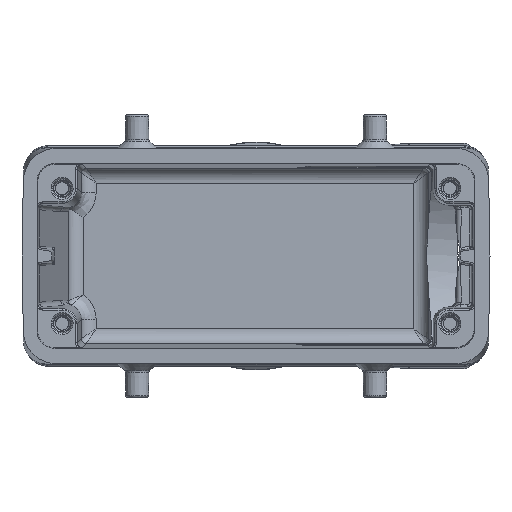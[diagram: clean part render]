
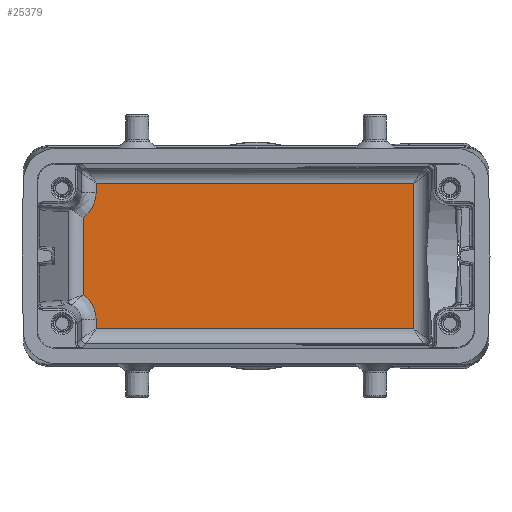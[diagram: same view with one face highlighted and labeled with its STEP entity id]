
A CAD part, front view. The second image highlights one B-rep face of the part: STEP entity #25379.
In plain terms, the highlighted planar face has unit normal (0, -1, 0).
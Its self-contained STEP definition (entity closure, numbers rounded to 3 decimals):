
#13 = CARTESIAN_POINT ( 'NONE',  ( -31.941, 70., -14.564 ) ) ;
#546 = ORIENTED_EDGE ( 'NONE', *, *, #1835, .T. ) ;
#1835 = EDGE_CURVE ( 'NONE', #10181, #6373, #18145, .T. ) ;
#2005 = CARTESIAN_POINT ( 'NONE',  ( -32.363, 70., -10.457 ) ) ;
#2234 = LINE ( 'NONE', #31857, #24948 ) ;
#2263 = CARTESIAN_POINT ( 'NONE',  ( -34.509, 70.011, -7.769 ) ) ;
#2440 = CARTESIAN_POINT ( 'NONE',  ( -32.399, 70., 10.342 ) ) ;
#3286 = DIRECTION ( 'NONE',  ( 0., 0., 1. ) ) ;
#3296 = VECTOR ( 'NONE', #27803, 1000. ) ;
#3528 = VECTOR ( 'NONE', #20782, 1000. ) ;
#4113 = CARTESIAN_POINT ( 'NONE',  ( -31.941, 70., 14.564 ) ) ;
#4394 = CARTESIAN_POINT ( 'NONE',  ( -32.51, 70., -10.129 ) ) ;
#4614 = CARTESIAN_POINT ( 'NONE',  ( -31.956, 70., 12.207 ) ) ;
#4717 = CARTESIAN_POINT ( 'NONE',  ( -31.941, 70., 12.691 ) ) ;
#4851 = CARTESIAN_POINT ( 'NONE',  ( -33.596, 70., -8.547 ) ) ;
#4950 = CARTESIAN_POINT ( 'NONE',  ( -33.357, 70., 8.818 ) ) ;
#5690 = DIRECTION ( 'NONE',  ( -1., 0., 0. ) ) ;
#6373 = VERTEX_POINT ( 'NONE', #12050 ) ;
#6440 = CARTESIAN_POINT ( 'NONE',  ( -31.941, 70., -12.691 ) ) ;
#6977 = CARTESIAN_POINT ( 'NONE',  ( -34.509, 70.011, -7.769 ) ) ;
#7092 = CARTESIAN_POINT ( 'NONE',  ( -33.763, 70., -8.378 ) ) ;
#7279 = ORIENTED_EDGE ( 'NONE', *, *, #7664, .T. ) ;
#7436 = CARTESIAN_POINT ( 'NONE',  ( -31.941, 70., -12.691 ) ) ;
#7598 = CARTESIAN_POINT ( 'NONE',  ( -31.941, 70., -18.5 ) ) ;
#7664 = EDGE_CURVE ( 'NONE', #17764, #9217, #18233, .T. ) ;
#7866 = B_SPLINE_CURVE_WITH_KNOTS ( 'NONE', 3,
 ( #6977, #20398, #17591, #7092, #4851, #25259, #27836, #4394, #2005, #17359, #22888, #9836, #20178, #23002, #7436 ),
 .UNSPECIFIED., .F., .F.,
 ( 4, 2, 2, 2, 1, 2, 2, 4 ),
 ( 0., 0.125, 0.25, 0.5, 0.625, 0.687, 0.75, 1. ),
 .UNSPECIFIED. ) ;
#8155 = LINE ( 'NONE', #22044, #25613 ) ;
#8308 = CARTESIAN_POINT ( 'NONE',  ( -51.563, 70., 14.564 ) ) ;
#8776 = ORIENTED_EDGE ( 'NONE', *, *, #19612, .T. ) ;
#9217 = VERTEX_POINT ( 'NONE', #4113 ) ;
#9286 = CARTESIAN_POINT ( 'NONE',  ( -51.563, 70., -18.5 ) ) ;
#9836 = CARTESIAN_POINT ( 'NONE',  ( -32.142, 70., -11.146 ) ) ;
#10165 = CARTESIAN_POINT ( 'NONE',  ( -32.014, 70., 11.73 ) ) ;
#10181 = VERTEX_POINT ( 'NONE', #17472 ) ;
#10469 = FACE_OUTER_BOUND ( 'NONE', #12418, .T. ) ;
#11663 = PLANE ( 'NONE',  #14244 ) ;
#12050 = CARTESIAN_POINT ( 'NONE',  ( -34.509, 70.013, 7.769 ) ) ;
#12232 = LINE ( 'NONE', #15063, #3296 ) ;
#12418 = EDGE_LOOP ( 'NONE', ( #12465, #30821, #21543, #31502, #27131, #7279, #8776, #546 ) ) ;
#12465 = ORIENTED_EDGE ( 'NONE', *, *, #18126, .T. ) ;
#14244 = AXIS2_PLACEMENT_3D ( 'NONE', #9286, #27623, #32638 ) ;
#15063 = CARTESIAN_POINT ( 'NONE',  ( -31.941, 70., -18.5 ) ) ;
#15459 = CARTESIAN_POINT ( 'NONE',  ( 31.477, 70., -14.564 ) ) ;
#15598 = VECTOR ( 'NONE', #28450, 1000. ) ;
#16334 = EDGE_CURVE ( 'NONE', #28227, #32790, #7866, .T. ) ;
#16506 = DIRECTION ( 'NONE',  ( 1., 0., 0. ) ) ;
#17359 = CARTESIAN_POINT ( 'NONE',  ( -32.246, 70., -10.798 ) ) ;
#17472 = CARTESIAN_POINT ( 'NONE',  ( -31.941, 70., 12.691 ) ) ;
#17513 = VERTEX_POINT ( 'NONE', #13 ) ;
#17591 = CARTESIAN_POINT ( 'NONE',  ( -34.121, 70., -8.058 ) ) ;
#17764 = VERTEX_POINT ( 'NONE', #27402 ) ;
#18126 = EDGE_CURVE ( 'NONE', #6373, #28227, #29312, .T. ) ;
#18145 = B_SPLINE_CURVE_WITH_KNOTS ( 'NONE', 3,
 ( #4717, #25251, #4614, #10165, #28483, #33618, #2440, #30891, #31005, #20828, #23326, #4950, #18234, #23536, #28382 ),
 .UNSPECIFIED., .F., .F.,
 ( 4, 2, 2, 2, 1, 2, 2, 4 ),
 ( 0., 0.125, 0.25, 0.5, 0.625, 0.687, 0.75, 1. ),
 .UNSPECIFIED. ) ;
#18233 = LINE ( 'NONE', #8308, #31964 ) ;
#18234 = CARTESIAN_POINT ( 'NONE',  ( -33.752, 70., 8.368 ) ) ;
#19612 = EDGE_CURVE ( 'NONE', #9217, #10181, #12232, .T. ) ;
#20178 = CARTESIAN_POINT ( 'NONE',  ( -32., 70., -11.727 ) ) ;
#20398 = CARTESIAN_POINT ( 'NONE',  ( -34.31, 70., -7.909 ) ) ;
#20782 = DIRECTION ( 'NONE',  ( 0., 0., -1. ) ) ;
#20828 = CARTESIAN_POINT ( 'NONE',  ( -33.131, 70., 9.102 ) ) ;
#21293 = EDGE_CURVE ( 'NONE', #17513, #33285, #8155, .T. ) ;
#21543 = ORIENTED_EDGE ( 'NONE', *, *, #28230, .T. ) ;
#22044 = CARTESIAN_POINT ( 'NONE',  ( -51.563, 70., -14.564 ) ) ;
#22888 = CARTESIAN_POINT ( 'NONE',  ( -32.175, 70., -11.028 ) ) ;
#23002 = CARTESIAN_POINT ( 'NONE',  ( -31.942, 70., -12.203 ) ) ;
#23326 = CARTESIAN_POINT ( 'NONE',  ( -33.279, 70., 8.912 ) ) ;
#23536 = CARTESIAN_POINT ( 'NONE',  ( -34.11, 70., 8.049 ) ) ;
#24948 = VECTOR ( 'NONE', #3286, 1000. ) ;
#25251 = CARTESIAN_POINT ( 'NONE',  ( -31.942, 70., 12.447 ) ) ;
#25259 = CARTESIAN_POINT ( 'NONE',  ( -33.117, 70., -9.091 ) ) ;
#25379 = ADVANCED_FACE ( 'NONE', ( #10469 ), #11663, .T. ) ;
#25613 = VECTOR ( 'NONE', #16506, 1000. ) ;
#27131 = ORIENTED_EDGE ( 'NONE', *, *, #31623, .T. ) ;
#27402 = CARTESIAN_POINT ( 'NONE',  ( 31.477, 70., 14.564 ) ) ;
#27623 = DIRECTION ( 'NONE',  ( 0., -1., 0. ) ) ;
#27803 = DIRECTION ( 'NONE',  ( 0., 0., -1. ) ) ;
#27836 = CARTESIAN_POINT ( 'NONE',  ( -32.844, 70., -9.488 ) ) ;
#28227 = VERTEX_POINT ( 'NONE', #2263 ) ;
#28230 = EDGE_CURVE ( 'NONE', #32790, #17513, #28668, .T. ) ;
#28382 = CARTESIAN_POINT ( 'NONE',  ( -34.509, 70.013, 7.769 ) ) ;
#28450 = DIRECTION ( 'NONE',  ( 0., 0., -1. ) ) ;
#28483 = CARTESIAN_POINT ( 'NONE',  ( -32.056, 70., 11.497 ) ) ;
#28668 = LINE ( 'NONE', #7598, #3528 ) ;
#29312 = LINE ( 'NONE', #30965, #15598 ) ;
#30821 = ORIENTED_EDGE ( 'NONE', *, *, #16334, .T. ) ;
#30891 = CARTESIAN_POINT ( 'NONE',  ( -32.733, 70., 9.702 ) ) ;
#30965 = CARTESIAN_POINT ( 'NONE',  ( -34.509, 70., 7.769 ) ) ;
#31005 = CARTESIAN_POINT ( 'NONE',  ( -32.918, 70., 9.393 ) ) ;
#31502 = ORIENTED_EDGE ( 'NONE', *, *, #21293, .T. ) ;
#31623 = EDGE_CURVE ( 'NONE', #33285, #17764, #2234, .T. ) ;
#31857 = CARTESIAN_POINT ( 'NONE',  ( 31.477, 70., 79.359 ) ) ;
#31964 = VECTOR ( 'NONE', #5690, 1000. ) ;
#32638 = DIRECTION ( 'NONE',  ( 0., 0., -1. ) ) ;
#32790 = VERTEX_POINT ( 'NONE', #6440 ) ;
#33285 = VERTEX_POINT ( 'NONE', #15459 ) ;
#33618 = CARTESIAN_POINT ( 'NONE',  ( -32.229, 70., 10.793 ) ) ;
